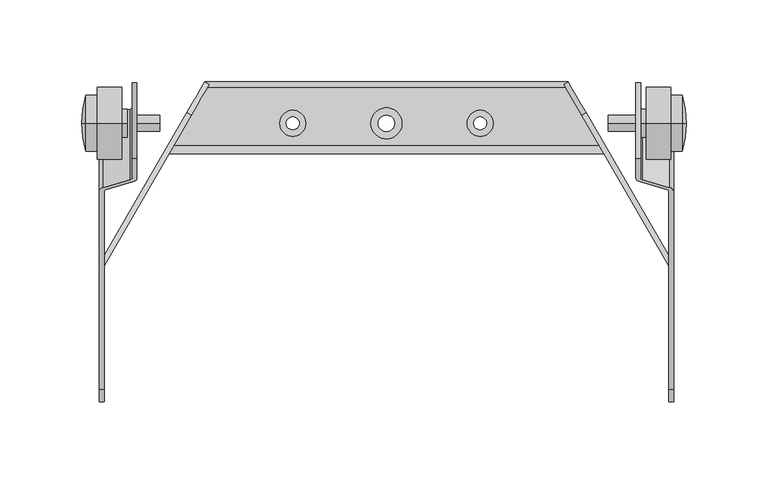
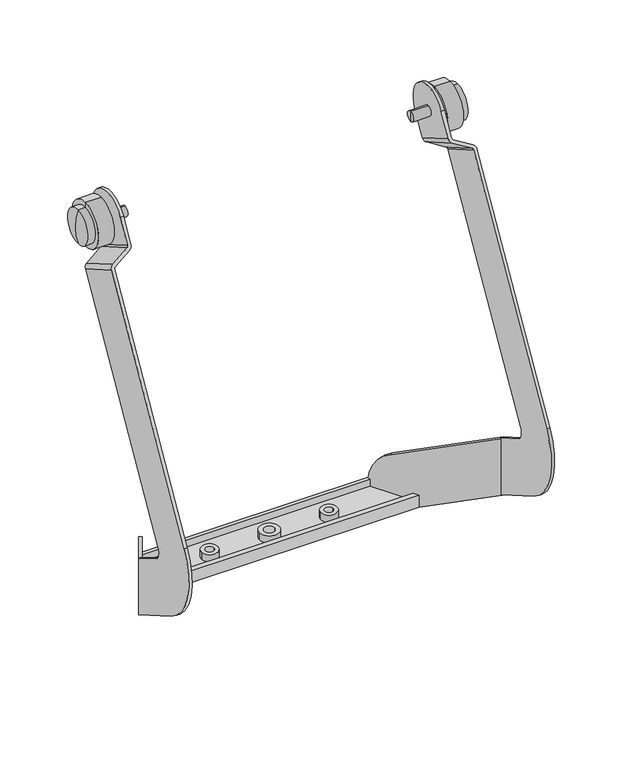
"""IFC4 building model written with IfcOpenShell, lengths in millimetres: proxy geometry, d&b E-Series E12 Flying Bracket : E12 Flying Bracket."""

from ifc_helpers import new_model, si_unit, point, frame, frame_2d, origin, origin_2d, place, context, project, spatial, polyline, circle_curve, ellipse_curve, trimmed, segment, composite_curve, outline, extrude, source, transform, mapped, element, save
from ifc_brep_helpers import plane_surface, cylinder_surface, revolved_surface, advanced_brep


def communication_devices_dac326ea(model_context):
    return source(origin(), model_context, "Body", "SolidModel", [
        advanced_brep(
        [(135.9595215, 0.0, 0.0), (135.9595215, 0.0, 5.0), (135.9595215, 0.0, -5.0), (152.9595215, 0.0, -5.0), (152.9595215, 0.0, 5.0), (152.9595215, 0.0, 0.0)],
        [
            (0, 1),
            (1, 2, circle_curve(frame((135.9595215, 0.0, 0.0), z_axis=(-1.0, 0.0, 0.0), x_axis=(0.0, 0.0, 1.0)), 5.0)),
            (2, 0),
            (2, 1, circle_curve(frame((135.9595215, 0.0, 0.0), z_axis=(-1.0, 0.0, 0.0), x_axis=(0.0, 0.0, 1.0)), 5.0)),
            (3, 4, circle_curve(frame((152.9595215, 0.0, 0.0), z_axis=(1.0, 0.0, 0.0), x_axis=(0.0, 0.0, 1.0)), 5.0)),
            (4, 5),
            (5, 3),
            (4, 3, circle_curve(frame((152.9595215, 0.0, 0.0), z_axis=(1.0, 0.0, 0.0), x_axis=(0.0, 0.0, 1.0)), 5.0)),
            (1, 4),
            (3, 2),
        ],
        [
            plane_surface(frame((135.9595215, 0.0, 0.0), z_axis=(-1.0, 0.0, 0.0), x_axis=(0.0, 0.0, 1.0))),
            plane_surface(frame((152.9595215, 0.0, 0.0), z_axis=(1.0, 0.0, 0.0), x_axis=(0.0, 0.0, 1.0))),
            cylinder_surface(frame((129.4940408, 0.0, 0.0), z_axis=(-1.0, 0.0, 0.0), x_axis=(0.0, 0.0, 1.0)), 5.0),
        ],
        [
            (0, [[1, 2, 3]]),
            (0, [[-3, 4, -1]]),
            (1, [[5, 6, 7]]),
            (1, [[8, -7, -6]]),
            (2, [[-2, 9, -5, 10]]),
            (2, [[-4, -10, -8, -9]]),
        ],
    ),
        advanced_brep(
        [(174.1608752, 0.0, -17.2114062), (174.1608752, 0.0, 17.2114062), (181.2977902, 0.0, 17.2114062), (181.2977902, 0.0, -17.2114062), (174.1608752, 0.0, -22.2114062), (174.1608752, 0.0, 22.2114062), (159.1608752, 0.0, -22.2114062), (159.1608752, 0.0, 22.2114062), (159.1608752, 0.0, -8.6587657), (159.1608752, 0.0, 8.6587657), (155.9595215, 0.0, -8.6587657), (155.9595215, 0.0, 8.6587657), (155.9595215, 0.0, 0.0), (183.8983232, 0.0, 0.0)],
        [
            (0, 1, circle_curve(frame((174.1608752, 0.0, 0.0), z_axis=(1.0, 0.0, 0.0), x_axis=(0.0, 0.0, 1.0)), 17.2114062)),
            (1, 2),
            (2, 3, circle_curve(frame((181.2977902, 0.0, 0.0), z_axis=(-1.0, 0.0, 0.0), x_axis=(0.0, 0.0, 1.0)), 17.2114062)),
            (3, 0),
            (1, 0, circle_curve(frame((174.1608752, 0.0, 0.0), z_axis=(1.0, 0.0, 0.0), x_axis=(0.0, 0.0, 1.0)), 17.2114062)),
            (3, 2, circle_curve(frame((181.2977902, 0.0, 0.0), z_axis=(-1.0, 0.0, 0.0), x_axis=(0.0, 0.0, 1.0)), 17.2114062)),
            (4, 5, circle_curve(frame((174.1608752, 0.0, 0.0), z_axis=(1.0, 0.0, 0.0), x_axis=(0.0, 0.0, 1.0)), 22.2114062)),
            (5, 1),
            (0, 4),
            (5, 4, circle_curve(frame((174.1608752, 0.0, 0.0), z_axis=(1.0, 0.0, 0.0), x_axis=(0.0, 0.0, 1.0)), 22.2114062)),
            (6, 7, circle_curve(frame((159.1608752, 0.0, 0.0), z_axis=(1.0, 0.0, 0.0), x_axis=(0.0, 0.0, 1.0)), 22.2114062)),
            (7, 5),
            (4, 6),
            (7, 6, circle_curve(frame((159.1608752, 0.0, 0.0), z_axis=(1.0, 0.0, 0.0), x_axis=(0.0, 0.0, 1.0)), 22.2114062)),
            (8, 9, circle_curve(frame((159.1608752, 0.0, 0.0), z_axis=(1.0, 0.0, 0.0), x_axis=(0.0, 0.0, 1.0)), 8.6587657)),
            (9, 7),
            (6, 8),
            (9, 8, circle_curve(frame((159.1608752, 0.0, 0.0), z_axis=(1.0, 0.0, 0.0), x_axis=(0.0, 0.0, 1.0)), 8.6587657)),
            (10, 11, circle_curve(frame((155.9595215, 0.0, 0.0), z_axis=(1.0, 0.0, 0.0), x_axis=(0.0, 0.0, 1.0)), 8.6587657)),
            (11, 9),
            (8, 10),
            (11, 10, circle_curve(frame((155.9595215, 0.0, 0.0), z_axis=(1.0, 0.0, 0.0), x_axis=(0.0, 0.0, 1.0)), 8.6587657)),
            (12, 11),
            (10, 12),
            (2, 13, circle_curve(frame((125.6419429, 0.0, 0.0), z_axis=(0.0, 1.0, 0.0), x_axis=(1.0, 0.0, 0.0)), 58.2563803)),
            (13, 3, circle_curve(frame((125.6419429, 0.0, 0.0), z_axis=(0.0, 1.0, 0.0), x_axis=(1.0, 0.0, 0.0)), 58.2563803)),
        ],
        [
            cylinder_surface(frame((129.4940408, 0.0, 0.0), z_axis=(-1.0, 0.0, 0.0), x_axis=(0.0, 0.0, 1.0)), 17.2114062),
            plane_surface(frame((174.1608752, 0.0, 0.0), z_axis=(1.0, 0.0, 0.0), x_axis=(0.0, 0.0, 1.0))),
            cylinder_surface(frame((129.4940408, 0.0, 0.0), z_axis=(-1.0, 0.0, 0.0), x_axis=(0.0, 0.0, 1.0)), 22.2114062),
            plane_surface(frame((159.1608752, 0.0, 0.0), z_axis=(-1.0, 0.0, 0.0), x_axis=(0.0, 0.0, 1.0))),
            cylinder_surface(frame((129.4940408, 0.0, 0.0), z_axis=(-1.0, 0.0, 0.0), x_axis=(0.0, 0.0, 1.0)), 8.6587657),
            plane_surface(frame((155.9595215, 0.0, 0.0), z_axis=(-1.0, 0.0, 0.0), x_axis=(0.0, 0.0, 1.0))),
            revolved_surface(trimmed(ellipse_curve(frame((125.6419429, 0.0, 0.0), z_axis=(0.0, -1.0, 0.0), x_axis=(1.0, 0.0, 0.0)), 58.2563803, 58.2563803), [point((183.8983232, 0.0, 0.0))], [point((181.2977902, 0.0, 17.2114062))], True, "CARTESIAN"), (129.4940408, 0.0, 0.0), (-1.0, 0.0, 0.0)),
        ],
        [
            (0, [[1, 2, 3, 4]]),
            (0, [[5, -4, 6, -2]]),
            (1, [[7, 8, -1, 9]]),
            (1, [[10, -9, -5, -8]]),
            (2, [[11, 12, -7, 13]]),
            (2, [[14, -13, -10, -12]]),
            (3, [[15, 16, -11, 17]]),
            (3, [[18, -17, -14, -16]]),
            (4, [[19, 20, -15, 21]]),
            (4, [[22, -21, -18, -20]]),
            (5, [[23, -19, 24]]),
            (5, [[-24, -22, -23]]),
            (6, [[-3, 25, 26]]),
            (6, [[-6, -26, -25]]),
        ],
    ),
        advanced_brep(
        [(-155.9595215, 0.0, -5.0), (-155.9595215, 0.0, 5.0), (-138.9595215, 0.0, 5.0), (-138.9595215, 0.0, -5.0), (-155.9595215, 0.0, 0.0), (-138.9595215, 0.0, 0.0)],
        [
            (0, 1, circle_curve(frame((-155.9595215, 0.0, 0.0), z_axis=(1.0, 0.0, 0.0), x_axis=(0.0, 0.0, 1.0)), 5.0)),
            (1, 2),
            (2, 3, circle_curve(frame((-138.9595215, 0.0, 0.0), z_axis=(-1.0, 0.0, 0.0), x_axis=(0.0, 0.0, 1.0)), 5.0)),
            (3, 0),
            (1, 0, circle_curve(frame((-155.9595215, 0.0, 0.0), z_axis=(1.0, 0.0, 0.0), x_axis=(0.0, 0.0, 1.0)), 5.0)),
            (3, 2, circle_curve(frame((-138.9595215, 0.0, 0.0), z_axis=(-1.0, 0.0, 0.0), x_axis=(0.0, 0.0, 1.0)), 5.0)),
            (4, 1),
            (0, 4),
            (2, 5),
            (5, 3),
        ],
        [
            cylinder_surface(frame((129.4940408, 0.0, 0.0), z_axis=(-1.0, 0.0, 0.0), x_axis=(0.0, 0.0, 1.0)), 5.0),
            plane_surface(frame((-155.9595215, 0.0, 0.0), z_axis=(-1.0, 0.0, 0.0), x_axis=(0.0, 0.0, 1.0))),
            plane_surface(frame((-138.9595215, 0.0, 0.0), z_axis=(1.0, 0.0, 0.0), x_axis=(0.0, 0.0, 1.0))),
        ],
        [
            (0, [[1, 2, 3, 4]]),
            (0, [[5, -4, 6, -2]]),
            (1, [[7, -1, 8]]),
            (1, [[-8, -5, -7]]),
            (2, [[-3, 9, 10]]),
            (2, [[-6, -10, -9]]),
        ],
    ),
        advanced_brep(
        [(-158.9595215, 0.0, -8.6587657), (-158.9595215, 0.0, 8.6587657), (-158.9595215, 0.0, 0.0), (-162.1608752, 0.0, -8.6587657), (-162.1608752, 0.0, 8.6587657), (-162.1608752, 0.0, -22.2114062), (-162.1608752, 0.0, 22.2114062), (-177.1608752, 0.0, -22.2114062), (-177.1608752, 0.0, 22.2114062), (-177.1608752, 0.0, -17.2114062), (-177.1608752, 0.0, 17.2114062), (-184.2977902, 0.0, -17.2114062), (-184.2977902, 0.0, 17.2114062), (-186.8983232, 0.0, 0.0)],
        [
            (0, 1, circle_curve(frame((-158.9595215, 0.0, 0.0), z_axis=(1.0, 0.0, 0.0), x_axis=(0.0, 0.0, 1.0)), 8.6587657)),
            (1, 2),
            (2, 0),
            (1, 0, circle_curve(frame((-158.9595215, 0.0, 0.0), z_axis=(1.0, 0.0, 0.0), x_axis=(0.0, 0.0, 1.0)), 8.6587657)),
            (3, 4, circle_curve(frame((-162.1608752, 0.0, 0.0), z_axis=(1.0, 0.0, 0.0), x_axis=(0.0, 0.0, 1.0)), 8.6587657)),
            (4, 1),
            (0, 3),
            (4, 3, circle_curve(frame((-162.1608752, 0.0, 0.0), z_axis=(1.0, 0.0, 0.0), x_axis=(0.0, 0.0, 1.0)), 8.6587657)),
            (5, 6, circle_curve(frame((-162.1608752, 0.0, 0.0), z_axis=(1.0, 0.0, 0.0), x_axis=(0.0, 0.0, 1.0)), 22.2114062)),
            (6, 4),
            (3, 5),
            (6, 5, circle_curve(frame((-162.1608752, 0.0, 0.0), z_axis=(1.0, 0.0, 0.0), x_axis=(0.0, 0.0, 1.0)), 22.2114062)),
            (7, 8, circle_curve(frame((-177.1608752, 0.0, 0.0), z_axis=(1.0, 0.0, 0.0), x_axis=(0.0, 0.0, 1.0)), 22.2114062)),
            (8, 6),
            (5, 7),
            (8, 7, circle_curve(frame((-177.1608752, 0.0, 0.0), z_axis=(1.0, 0.0, 0.0), x_axis=(0.0, 0.0, 1.0)), 22.2114062)),
            (9, 10, circle_curve(frame((-177.1608752, 0.0, 0.0), z_axis=(1.0, 0.0, 0.0), x_axis=(0.0, 0.0, 1.0)), 17.2114062)),
            (10, 8),
            (7, 9),
            (10, 9, circle_curve(frame((-177.1608752, 0.0, 0.0), z_axis=(1.0, 0.0, 0.0), x_axis=(0.0, 0.0, 1.0)), 17.2114062)),
            (11, 12, circle_curve(frame((-184.2977902, 0.0, 0.0), z_axis=(1.0, 0.0, 0.0), x_axis=(0.0, 0.0, 1.0)), 17.2114062)),
            (12, 10),
            (9, 11),
            (12, 11, circle_curve(frame((-184.2977902, 0.0, 0.0), z_axis=(1.0, 0.0, 0.0), x_axis=(0.0, 0.0, 1.0)), 17.2114062)),
            (13, 12, circle_curve(frame((-128.6419429, 0.0, 0.0), z_axis=(0.0, 1.0, 0.0), x_axis=(-1.0, 0.0, 0.0)), 58.2563803)),
            (11, 13, circle_curve(frame((-128.6419429, 0.0, 0.0), z_axis=(0.0, 1.0, 0.0), x_axis=(-1.0, 0.0, 0.0)), 58.2563803)),
        ],
        [
            plane_surface(frame((-158.9595215, 0.0, 0.0), z_axis=(1.0, 0.0, 0.0), x_axis=(0.0, 0.0, 1.0))),
            cylinder_surface(frame((129.4940408, 0.0, 0.0), z_axis=(-1.0, 0.0, 0.0), x_axis=(0.0, 0.0, 1.0)), 8.6587657),
            plane_surface(frame((-162.1608752, 0.0, 0.0), z_axis=(1.0, 0.0, 0.0), x_axis=(0.0, 0.0, 1.0))),
            cylinder_surface(frame((129.4940408, 0.0, 0.0), z_axis=(-1.0, 0.0, 0.0), x_axis=(0.0, 0.0, 1.0)), 22.2114062),
            plane_surface(frame((-177.1608752, 0.0, 0.0), z_axis=(-1.0, 0.0, 0.0), x_axis=(0.0, 0.0, 1.0))),
            cylinder_surface(frame((129.4940408, 0.0, 0.0), z_axis=(-1.0, 0.0, 0.0), x_axis=(0.0, 0.0, 1.0)), 17.2114062),
            revolved_surface(trimmed(ellipse_curve(frame((-128.6419429, 0.0, 0.0), z_axis=(0.0, -1.0, 0.0), x_axis=(-1.0, 0.0, 0.0)), 58.2563803, 58.2563803), [point((-184.2977902, 0.0, 17.2114062))], [point((-186.8983232, 0.0, 0.0))], True, "CARTESIAN"), (129.4940408, 0.0, 0.0), (-1.0, 0.0, 0.0)),
        ],
        [
            (0, [[1, 2, 3]]),
            (0, [[4, -3, -2]]),
            (1, [[5, 6, -1, 7]]),
            (1, [[8, -7, -4, -6]]),
            (2, [[9, 10, -5, 11]]),
            (2, [[12, -11, -8, -10]]),
            (3, [[13, 14, -9, 15]]),
            (3, [[16, -15, -12, -14]]),
            (4, [[17, 18, -13, 19]]),
            (4, [[20, -19, -16, -18]]),
            (5, [[21, 22, -17, 23]]),
            (5, [[24, -23, -20, -22]]),
            (6, [[25, -21, 26]]),
            (6, [[-26, -24, -25]]),
        ],
    ),
        advanced_brep(
        [(-109.8427221, 22.0294085, -380.4443113), (-130.4541267, -13.6705915, -380.4443113), (130.4541267, -13.6705915, -380.4443113), (109.8427221, 22.0294085, -380.4443113), (-61.4155031, 0.0, -380.4443113), (-53.4660711, 0.0, -380.4443113), (61.4155031, 0.0, -380.4443113), (53.4660711, 0.0, -380.4443113), (-5.0, 0.0, -380.4443113), (5.0, 0.0, -380.4443113), (-133.340878, -18.6705915, -385.4443113), (133.340878, -18.6705915, -385.4443113), (133.340878, -18.6705915, -373.4443113), (-133.340878, -18.6705915, -373.4443113), (-61.4155031, 0.0, -385.4443113), (-53.4660711, 0.0, -385.4443113), (61.4155031, 0.0, -385.4443113), (53.4660711, 0.0, -385.4443113), (-5.0, 0.0, -385.4443113), (5.0, 0.0, -385.4443113), (-155.9595215, -21.6526926, 12.5011879), (-155.9595215, 21.6485776, -12.4988121), (-155.9595215, 9.4859574, -33.5650882), (-155.9595215, -33.8153128, -8.5650882), (-152.9595215, -21.6526926, 12.5011879), (-152.9595215, -33.8153128, -8.5650882), (-152.9595215, 9.4859574, -33.5650882), (-152.9595215, 21.6485776, -12.4988121), (-156.9595215, -34.6813382, -10.0650882), (-173.5, -39.456163, -18.3353275), (-176.0, -41.6212266, -22.0853275), (-176.0, -162.8973037, -232.1416549), (-173.0, -162.8973037, -232.1416549), (-173.0, -41.6212266, -22.0853275), (-172.0, -40.7552012, -20.5853275), (-155.4595215, -35.9803763, -12.3150882), (-155.4595215, 7.3208939, -37.3150882), (-172.0, 2.546069, -45.5853275), (-173.0, 1.6800436, -47.0853275), (-173.0, -119.6052554, -257.1576276), (-176.0, -119.6052554, -257.1576276), (-176.0, 1.6800436, -47.0853275), (-173.5, 3.8451071, -43.3353275), (-156.9595215, 8.619932, -35.0650882), (-173.0, -140.9357795, -314.1031791), (-173.0, -87.3622057, -345.0338964), (-173.0, -87.3622057, -288.1862499), (-173.0, -86.5583581, -288.5343764), (-173.0, -86.5583581, -287.7842681), (-173.0, -115.9450014, -270.8178817), (-176.0, -115.9450014, -270.8178817), (-176.0, -86.5583581, -287.7842681), (-176.0, -86.5583581, -345.497998), (-176.0, -140.9357795, -314.1031791), (130.4541267, -13.6705915, -373.4443113), (-130.4541267, -13.6705915, -373.4443113), (111.2860977, 25.5294085, -373.4443113), (-111.2860977, 25.5294085, -373.4443113), (-111.3757414, 25.3741412, -373.4443113), (-108.7776652, 23.8741412, -373.4443113), (-109.8427221, 22.0294085, -373.4443113), (109.8427221, 22.0294085, -373.4443113), (108.7776652, 23.8741412, -373.4443113), (111.3757414, 25.3741412, -373.4443113), (111.2860977, 25.5294085, -385.4443113), (-111.2860977, 25.5294085, -385.4443113), (-173.4019238, -88.0583581, -344.6319726), (-122.3407926, 6.3821154, -341.4512241), (-135.9400452, -17.1724811, -385.4443113), (-173.4019238, -88.0583581, -345.497998), (-119.7427164, 4.8821154, -341.4512241), (135.9400452, -17.1724811, -385.4443113), (122.3407926, 6.3821154, -341.4512241), (176.0, -86.5583581, -287.7842681), (176.0, -86.5583581, -345.497998), (173.0, 1.6800436, -47.0853275), (173.0, -119.6052554, -257.1576276), (173.0, -115.9450014, -270.8178817), (173.0, -86.5583581, -287.7842681), (173.0, -86.5583581, -288.5343764), (173.0, -87.3622057, -288.1862499), (173.0, -87.3622057, -345.0338964), (173.0, -140.9357795, -314.1031791), (173.0, -162.8973037, -232.1416549), (173.0, -41.6212266, -22.0853275), (176.0, -41.6212266, -22.0853275), (176.0, -162.8973037, -232.1416549), (176.0, -140.9357795, -314.1031791), (176.0, -115.9450014, -270.8178817), (176.0, -119.6052554, -257.1576276), (176.0, 1.6800436, -47.0853275), (173.5, -39.456163, -18.3353275), (156.9595215, -34.6813382, -10.0650882), (155.9595215, -33.8153128, -8.5650882), (155.9595215, -21.6526926, 12.5011879), (152.9595215, -21.6526926, 12.5011879), (152.9595215, -33.8153128, -8.5650882), (155.4595215, -35.9803763, -12.3150882), (172.0, -40.7552012, -20.5853275), (173.4019238, -88.0583581, -344.6319726), (172.0, 2.546069, -45.5853275), (155.4595215, 7.3208939, -37.3150882), (152.9595215, 9.4859574, -33.5650882), (152.9595215, 21.6485776, -12.4988121), (155.9595215, 21.6485776, -12.4988121), (155.9595215, 9.4859574, -33.5650882), (156.9595215, 8.619932, -35.0650882), (173.5, 3.8451071, -43.3353275), (173.4019238, -88.0583581, -345.497998), (119.7427164, 4.8821154, -341.4512241)],
        [
            (0, 1),
            (1, 2),
            (2, 3),
            (3, 0),
            (4, 5, circle_curve(frame((-57.4407871, 0.0, -380.4443113), z_axis=(0.0, 0.0, -1.0), x_axis=(1.0, 0.0, 0.0)), 3.974716)),
            (5, 4, circle_curve(frame((-57.4407871, 0.0, -380.4443113), z_axis=(0.0, 0.0, -1.0), x_axis=(1.0, 0.0, 0.0)), 3.974716)),
            (6, 7, circle_curve(frame((57.4407871, 0.0, -380.4443113), z_axis=(0.0, 0.0, -1.0), x_axis=(-1.0, 0.0, 0.0)), 3.974716)),
            (7, 6, circle_curve(frame((57.4407871, 0.0, -380.4443113), z_axis=(0.0, 0.0, -1.0), x_axis=(-1.0, 0.0, 0.0)), 3.974716)),
            (8, 9, circle_curve(frame((0.0, 0.0, -380.4443113), z_axis=(0.0, 0.0, -1.0), x_axis=(1.0, 0.0, 0.0)), 5.0)),
            (9, 8, circle_curve(frame((0.0, 0.0, -380.4443113), z_axis=(0.0, 0.0, -1.0), x_axis=(1.0, 0.0, 0.0)), 5.0)),
            (10, 11),
            (11, 12),
            (12, 13),
            (13, 10),
            (14, 15, circle_curve(frame((-57.4407871, 0.0, -385.4443113), z_axis=(0.0, 0.0, -1.0), x_axis=(1.0, 0.0, 0.0)), 3.974716)),
            (15, 5),
            (4, 14),
            (15, 14, circle_curve(frame((-57.4407871, 0.0, -385.4443113), z_axis=(0.0, 0.0, -1.0), x_axis=(1.0, 0.0, 0.0)), 3.974716)),
            (16, 17, circle_curve(frame((57.4407871, 0.0, -385.4443113), z_axis=(0.0, 0.0, -1.0), x_axis=(-1.0, 0.0, 0.0)), 3.974716)),
            (17, 7),
            (6, 16),
            (17, 16, circle_curve(frame((57.4407871, 0.0, -385.4443113), z_axis=(0.0, 0.0, -1.0), x_axis=(-1.0, 0.0, 0.0)), 3.974716)),
            (18, 19, circle_curve(frame((0.0, 0.0, -385.4443113), z_axis=(0.0, 0.0, -1.0), x_axis=(1.0, 0.0, 0.0)), 5.0)),
            (19, 9),
            (8, 18),
            (19, 18, circle_curve(frame((0.0, 0.0, -385.4443113), z_axis=(0.0, 0.0, -1.0), x_axis=(1.0, 0.0, 0.0)), 5.0)),
            (20, 21, circle_curve(frame((-155.9595215, -0.0020575, 0.0011879), z_axis=(-1.0, 0.0, 0.0), x_axis=(0.0, -1.0, 0.0)), 25.0)),
            (21, 22),
            (22, 23),
            (23, 20),
            (24, 25),
            (25, 26),
            (26, 27),
            (27, 24, circle_curve(frame((-152.9595215, -0.0020575, 0.0011879), z_axis=(1.0, 0.0, 0.0), x_axis=(0.0, -1.0, 0.0)), 25.0)),
            (23, 28, circle_curve(frame((-157.9595215, -33.8153128, -8.5650882), z_axis=(0.0, 0.866025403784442, -0.4999999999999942), x_axis=(0.0, 0.4999999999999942, 0.866025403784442)), 2.0)),
            (28, 29),
            (29, 30, circle_curve(frame((-171.0, -41.6212266, -22.0853275), z_axis=(0.0, -0.866025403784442, 0.4999999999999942), x_axis=(0.0, 0.4999999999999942, 0.866025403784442)), 5.0)),
            (30, 31),
            (31, 32),
            (32, 33),
            (33, 34, circle_curve(frame((-171.0, -41.6212266, -22.0853275), z_axis=(0.0, 0.866025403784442, -0.4999999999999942), x_axis=(0.0, 0.4999999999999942, 0.866025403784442)), 2.0)),
            (34, 35),
            (35, 25, circle_curve(frame((-157.9595215, -33.8153128, -8.5650882), z_axis=(0.0, -0.866025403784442, 0.4999999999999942), x_axis=(0.0, 0.4999999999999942, 0.866025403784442)), 5.0)),
            (24, 20),
            (21, 27),
            (26, 36, circle_curve(frame((-157.9595215, 9.4859574, -33.5650882), z_axis=(0.0, 0.866025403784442, -0.4999999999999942), x_axis=(0.0, 0.4999999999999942, 0.866025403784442)), 5.0)),
            (36, 37),
            (37, 38, circle_curve(frame((-171.0, 1.6800436, -47.0853275), z_axis=(0.0, -0.866025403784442, 0.4999999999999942), x_axis=(0.0, 0.4999999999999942, 0.866025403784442)), 2.0)),
            (38, 39),
            (39, 40),
            (40, 41),
            (41, 42, circle_curve(frame((-171.0, 1.6800436, -47.0853275), z_axis=(0.0, 0.866025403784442, -0.4999999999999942), x_axis=(0.0, 0.4999999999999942, 0.866025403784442)), 5.0)),
            (42, 43),
            (43, 22, circle_curve(frame((-157.9595215, 9.4859574, -33.5650882), z_axis=(0.0, -0.866025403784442, 0.4999999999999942), x_axis=(0.0, 0.4999999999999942, 0.866025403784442)), 2.0)),
            (32, 44, circle_curve(frame((-173.0, -110.9357795, -262.1416549), z_axis=(1.0, 0.0, 0.0), x_axis=(0.0, -1.0, 0.0)), 60.0)),
            (44, 45),
            (45, 46),
            (46, 47),
            (47, 48),
            (48, 49),
            (49, 39, circle_curve(frame((-173.0, -110.9450014, -262.1576276), z_axis=(-1.0, 0.0, 0.0), x_axis=(0.0, -1.0, 0.0)), 10.0)),
            (38, 33),
            (40, 50, circle_curve(frame((-176.0, -110.9450014, -262.1576276), z_axis=(1.0, 0.0, 0.0), x_axis=(0.0, -1.0, 0.0)), 10.0)),
            (50, 51),
            (51, 52),
            (52, 53),
            (53, 31, circle_curve(frame((-176.0, -110.9357795, -262.1416549), z_axis=(-1.0, 0.0, 0.0), x_axis=(0.0, -1.0, 0.0)), 60.0)),
            (30, 41),
            (12, 54),
            (54, 55),
            (55, 13),
            (56, 57),
            (57, 58),
            (58, 59),
            (59, 60),
            (60, 61),
            (61, 62),
            (62, 63),
            (63, 56),
            (54, 2),
            (1, 55),
            (60, 0),
            (3, 61),
            (56, 64),
            (64, 65),
            (65, 57),
            (53, 44),
            (52, 66),
            (66, 45),
            (51, 48),
            (47, 51),
            (50, 49),
            (37, 34),
            (36, 35),
            (43, 28),
            (42, 29),
            (51, 67),
            (67, 58, circle_curve(frame((-131.2860977, -9.1116076, -377.2272785), z_axis=(-0.866025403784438, 0.500000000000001, 0.0), x_axis=(-0.500000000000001, -0.866025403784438, 0.0)), 40.0)),
            (65, 68),
            (68, 52),
            (69, 10),
            (59, 70, circle_curve(frame((-128.6880215, -10.6116076, -377.2272785), z_axis=(0.866025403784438, -0.500000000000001, 0.0), x_axis=(-0.500000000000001, -0.866025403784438, 0.0)), 40.0)),
            (70, 46),
            (66, 69),
            (52, 69),
            (70, 67),
            (10, 68),
            (64, 71),
            (71, 11),
            (63, 72, circle_curve(frame((131.2860977, -9.1116076, -377.2272785), z_axis=(0.866025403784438, 0.500000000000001, 0.0), x_axis=(0.500000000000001, -0.866025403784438, 0.0)), 40.0)),
            (72, 73),
            (73, 74),
            (74, 71),
            (75, 76),
            (76, 77, circle_curve(frame((173.0, -110.9450014, -262.1576276), z_axis=(1.0, 0.0, 0.0), x_axis=(0.0, -1.0, 0.0)), 10.0)),
            (77, 78),
            (78, 79),
            (79, 80),
            (80, 81),
            (81, 82),
            (82, 83, circle_curve(frame((173.0, -110.9357795, -262.1416549), z_axis=(-1.0, 0.0, 0.0), x_axis=(0.0, -1.0, 0.0)), 60.0)),
            (83, 84),
            (84, 75),
            (85, 86),
            (86, 87, circle_curve(frame((176.0, -110.9357795, -262.1416549), z_axis=(1.0, 0.0, 0.0), x_axis=(0.0, -1.0, 0.0)), 60.0)),
            (87, 74),
            (73, 88),
            (88, 89, circle_curve(frame((176.0, -110.9450014, -262.1576276), z_axis=(-1.0, 0.0, 0.0), x_axis=(0.0, -1.0, 0.0)), 10.0)),
            (89, 90),
            (90, 85),
            (83, 86),
            (85, 91, circle_curve(frame((171.0, -41.6212266, -22.0853275), z_axis=(0.0, -0.866025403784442, 0.4999999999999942), x_axis=(0.0, 0.4999999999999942, 0.866025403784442)), 5.0)),
            (91, 92),
            (92, 93, circle_curve(frame((157.9595215, -33.8153128, -8.5650882), z_axis=(0.0, 0.866025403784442, -0.4999999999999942), x_axis=(0.0, 0.4999999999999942, 0.866025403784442)), 2.0)),
            (93, 94),
            (94, 95),
            (95, 96),
            (96, 97, circle_curve(frame((157.9595215, -33.8153128, -8.5650882), z_axis=(0.0, -0.866025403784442, 0.4999999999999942), x_axis=(0.0, 0.4999999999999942, 0.866025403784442)), 5.0)),
            (97, 98),
            (98, 84, circle_curve(frame((171.0, -41.6212266, -22.0853275), z_axis=(0.0, 0.866025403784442, -0.4999999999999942), x_axis=(0.0, 0.4999999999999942, 0.866025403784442)), 2.0)),
            (82, 87),
            (81, 99),
            (99, 74),
            (78, 73),
            (73, 79),
            (77, 88),
            (76, 89),
            (75, 100, circle_curve(frame((171.0, 1.6800436, -47.0853275), z_axis=(0.0, -0.866025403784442, 0.4999999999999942), x_axis=(0.0, 0.4999999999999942, 0.866025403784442)), 2.0)),
            (100, 101),
            (101, 102, circle_curve(frame((157.9595215, 9.4859574, -33.5650882), z_axis=(0.0, 0.866025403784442, -0.4999999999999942), x_axis=(0.0, 0.4999999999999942, 0.866025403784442)), 5.0)),
            (102, 103),
            (103, 104),
            (104, 105),
            (105, 106, circle_curve(frame((157.9595215, 9.4859574, -33.5650882), z_axis=(0.0, -0.866025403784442, 0.4999999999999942), x_axis=(0.0, 0.4999999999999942, 0.866025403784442)), 2.0)),
            (106, 107),
            (107, 90, circle_curve(frame((171.0, 1.6800436, -47.0853275), z_axis=(0.0, 0.866025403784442, -0.4999999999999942), x_axis=(0.0, 0.4999999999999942, 0.866025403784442)), 5.0)),
            (93, 105),
            (104, 94, circle_curve(frame((155.9595215, -0.0020575, 0.0011879), z_axis=(1.0, 0.0, 0.0), x_axis=(0.0, -1.0, 0.0)), 25.0)),
            (95, 103, circle_curve(frame((152.9595215, -0.0020575, 0.0011879), z_axis=(-1.0, 0.0, 0.0), x_axis=(0.0, -1.0, 0.0)), 25.0)),
            (102, 96),
            (98, 100),
            (97, 101),
            (92, 106),
            (91, 107),
            (11, 108),
            (108, 99),
            (80, 109),
            (109, 62, circle_curve(frame((128.6880215, -10.6116076, -377.2272785), z_axis=(-0.866025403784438, -0.500000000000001, 0.0), x_axis=(0.500000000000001, -0.866025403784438, 0.0)), 40.0)),
            (108, 74),
            (72, 109),
        ],
        [
            plane_surface(frame((-104.945433, 30.511762, -380.4443113), z_axis=(0.0, 0.0, 1.0), x_axis=(-0.4999999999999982, -0.8660254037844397, 0.0))),
            plane_surface(frame((-133.340878, -18.6705915, -380.4443113), z_axis=(0.0, -1.0, 0.0), x_axis=(0.0, 0.0, -1.0))),
            revolved_surface(polyline([(-53.4660711, 0.0, -385.4443113), (-53.4660711, 0.0, -380.4443113)]), (-57.4407871, 0.0, -380.4443113), (0.0, 0.0, -1.0)),
            revolved_surface(polyline([(53.4660711, 0.0, -385.4443113), (53.4660711, 0.0, -380.4443113)]), (57.4407871, 0.0, -380.4443113), (0.0, 0.0, -1.0)),
            revolved_surface(polyline([(5.0, 0.0, -385.4443113), (5.0, 0.0, -380.4443113)]), (0.0, 0.0, -380.4443113), (0.0, 0.0, -1.0)),
            plane_surface(frame((-155.9595215, -25.0020575, 0.0011879), z_axis=(-1.0, 0.0, 0.0), x_axis=(0.0, 0.0, 1.0))),
            plane_surface(frame((-152.9595215, -25.0020575, 0.0011879), z_axis=(1.0, 0.0, 0.0), x_axis=(0.0, 0.0, -1.0))),
            plane_surface(frame((-155.9595215, -33.8153128, -8.5650882), z_axis=(0.0, -0.8660254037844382, 0.500000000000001), x_axis=(1.0, 0.0, 0.0))),
            plane_surface(frame((-155.9595215, 21.6485776, -12.4988121), z_axis=(0.0, 0.8660254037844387, -0.5), x_axis=(1.0, 0.0, 0.0))),
            cylinder_surface(frame((-152.9595215, -0.0020575, 0.0011879), z_axis=(-1.0, 0.0, 0.0), x_axis=(0.0, -1.0, 0.0)), 25.0),
            plane_surface(frame((-173.0, -162.8973037, -232.1416549), z_axis=(1.0, 0.0, 0.0), x_axis=(0.0, -0.49999999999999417, -0.866025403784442))),
            plane_surface(frame((-176.0, -162.8973037, -232.1416549), z_axis=(-1.0, 0.0, 0.0), x_axis=(0.0, 0.49999999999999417, 0.866025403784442))),
            plane_surface(frame((-125.0774491, -4.3579127, -373.4443113), z_axis=(0.0, 0.0, 1.0), x_axis=(-0.5000000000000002, -0.8660254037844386, 0.0))),
            plane_surface(frame((130.4541267, -13.6705915, -373.4443113), z_axis=(0.0, 1.0, 0.0), x_axis=(0.0, 0.0, -1.0))),
            plane_surface(frame((-113.3068237, 22.0294085, -373.4443113), z_axis=(0.0, -1.0, 0.0), x_axis=(0.0, 0.0, -1.0))),
            plane_surface(frame((111.2860977, 25.5294085, -373.4443113), z_axis=(0.0, 1.0, 0.0), x_axis=(0.0, 0.0, -1.0))),
            cylinder_surface(frame((-176.0, -110.9357795, -262.1416549), z_axis=(1.0, 0.0, 0.0), x_axis=(0.0, -1.0, 0.0)), 60.0),
            plane_surface(frame((-173.0, -140.9357795, -314.1031791), z_axis=(0.0, -0.4999999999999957, -0.8660254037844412), x_axis=(-1.0, 0.0, 0.0))),
            plane_surface(frame((-173.0, -86.5583581, -345.497998), z_axis=(0.0, 1.0, 0.0), x_axis=(-1.0, 0.0, 0.0))),
            plane_surface(frame((-173.0, -86.5583581, -287.7842681), z_axis=(0.0, 0.49999999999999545, 0.8660254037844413), x_axis=(-1.0, 0.0, 0.0))),
            revolved_surface(polyline([(-176.0, -120.9450014, -262.1576276), (-173.0, -120.9450014, -262.1576276)]), (-176.0, -110.9450014, -262.1576276), (-1.0, 0.0, 0.0)),
            revolved_surface(polyline([(-171.0, 2.6800435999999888, -45.353276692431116), (-171.0, -40.621226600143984, -20.353276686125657)]), (-171.0, 1.6800436, -47.0853275), (0.0, 0.866025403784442, -0.4999999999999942)),
            plane_surface(frame((-172.0, -40.7552012, -20.5853275), z_axis=(0.5000000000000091, -0.43301270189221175, -0.7499999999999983), x_axis=(0.0, 0.866025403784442, -0.4999999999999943))),
            cylinder_surface(frame((-157.9595215, 9.4859574, -33.5650882), z_axis=(0.0, -0.866025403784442, 0.4999999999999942), x_axis=(0.0, 0.4999999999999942, 0.866025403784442)), 5.0),
            revolved_surface(polyline([(-157.9595215, 10.48595740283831, -31.833037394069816), (-157.9595215, -32.815312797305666, -6.833037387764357)]), (-157.9595215, 9.4859574, -33.5650882), (0.0, 0.866025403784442, -0.4999999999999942)),
            plane_surface(frame((-156.9595215, -34.6813382, -10.0650882), z_axis=(-0.5000000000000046, 0.43301270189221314, 0.7500000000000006), x_axis=(0.0, 0.8660254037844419, -0.49999999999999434))),
            cylinder_surface(frame((-171.0, 1.6800436, -47.0853275), z_axis=(0.0, -0.866025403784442, 0.4999999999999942), x_axis=(0.0, 0.4999999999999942, 0.866025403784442)), 5.0),
            plane_surface(frame((-176.0, -86.5583581, -287.7842681), z_axis=(-0.866025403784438, 0.500000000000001, 0.0), x_axis=(0.0, 0.0, 1.0))),
            plane_surface(frame((-173.4019238, -88.0583581, -287.7842681), z_axis=(0.866025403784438, -0.500000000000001, 0.0), x_axis=(0.0, 0.0, -1.0))),
            plane_surface(frame((-176.0, -86.5583581, -345.497998), z_axis=(-0.5000000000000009, -0.8660254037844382, 0.0), x_axis=(0.8660254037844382, -0.5000000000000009, 0.0))),
            plane_surface(frame((-176.0, -86.5583581, -287.7842681), z_axis=(0.22363262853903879, 0.38734307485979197, 0.8944013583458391), x_axis=(0.8660254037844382, -0.5000000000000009, 0.0))),
            cylinder_surface(frame((-128.6880215, -10.6116076, -377.2272785), z_axis=(-0.866025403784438, 0.500000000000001, 0.0), x_axis=(-0.500000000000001, -0.866025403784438, 0.0)), 40.0),
            plane_surface(frame((-111.2860977, 25.5294085, -385.4443113), z_axis=(0.0, 0.0, -1.0), x_axis=(0.8660254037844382, -0.5000000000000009, 0.0))),
            plane_surface(frame((-135.9400452, -17.1724811, -385.4443113), z_axis=(-0.2230989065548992, -0.3864186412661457, -0.8949343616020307), x_axis=(0.8660254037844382, -0.5000000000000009, 0.0))),
            plane_surface(frame((113.3068237, 22.0294085, -373.4443113), z_axis=(0.8660254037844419, 0.4999999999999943, 0.0), x_axis=(0.0, 0.0, -1.0))),
            plane_surface(frame((173.0, -64.3129938, -8.9842295), z_axis=(-1.0, 0.0, 0.0), x_axis=(0.0, 0.8660254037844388, -0.4999999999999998))),
            plane_surface(frame((176.0, -64.3129938, -8.9842295), z_axis=(1.0, 0.0, 0.0), x_axis=(0.0, -0.8660254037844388, 0.4999999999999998))),
            plane_surface(frame((173.0, -162.8973037, -232.1416549), z_axis=(0.0, -0.866025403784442, 0.49999999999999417), x_axis=(1.0, 0.0, 0.0))),
            cylinder_surface(frame((176.0, -110.9357795, -262.1416549), z_axis=(-1.0, 0.0, 0.0), x_axis=(0.0, -1.0, 0.0)), 60.0),
            plane_surface(frame((173.0, -86.5583581, -345.497998), z_axis=(0.0, -0.4999999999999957, -0.8660254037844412), x_axis=(1.0, 0.0, 0.0))),
            plane_surface(frame((173.0, -86.5583581, -287.7842681), z_axis=(0.0, 1.0, 0.0), x_axis=(1.0, 0.0, 0.0))),
            plane_surface(frame((173.0, -115.9450014, -270.8178817), z_axis=(0.0, 0.49999999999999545, 0.8660254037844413), x_axis=(1.0, 0.0, 0.0))),
            revolved_surface(polyline([(176.0, -120.9450014, -262.1576276), (173.0, -120.9450014, -262.1576276)]), (176.0, -110.9450014, -262.1576276), (1.0, 0.0, 0.0)),
            plane_surface(frame((173.0, 1.6800436, -47.0853275), z_axis=(0.0, 0.8660254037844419, -0.49999999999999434), x_axis=(1.0, 0.0, 0.0))),
            plane_surface(frame((155.9595215, -115.6740046, -150.3485014), z_axis=(1.0, 0.0, 0.0), x_axis=(0.0, -0.500000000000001, -0.8660254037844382))),
            plane_surface(frame((152.9595215, -115.6740046, -150.3485014), z_axis=(-1.0, 0.0, 0.0), x_axis=(0.0, 0.500000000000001, 0.8660254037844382))),
            cylinder_surface(frame((152.9595215, -0.0020575, 0.0011879), z_axis=(1.0, 0.0, 0.0), x_axis=(0.0, -1.0, 0.0)), 25.0),
            revolved_surface(polyline([(171.0, 2.6800435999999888, -45.353276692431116), (171.0, -40.621226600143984, -20.353276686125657)]), (171.0, 1.6800436, -47.0853275), (0.0, 0.866025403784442, -0.4999999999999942)),
            plane_surface(frame((155.4595215, -35.9803763, -12.3150882), z_axis=(-0.5000000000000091, -0.43301270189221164, -0.7499999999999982), x_axis=(0.0, 0.866025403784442, -0.4999999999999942))),
            cylinder_surface(frame((157.9595215, 9.4859574, -33.5650882), z_axis=(0.0, -0.866025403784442, 0.4999999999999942), x_axis=(0.0, 0.4999999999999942, 0.866025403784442)), 5.0),
            revolved_surface(polyline([(157.9595215, 10.48595740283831, -31.833037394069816), (157.9595215, -32.815312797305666, -6.833037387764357)]), (157.9595215, 9.4859574, -33.5650882), (0.0, 0.866025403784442, -0.4999999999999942)),
            plane_surface(frame((173.5, -39.456163, -18.3353275), z_axis=(0.5000000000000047, 0.433012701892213, 0.7500000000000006), x_axis=(0.0, 0.866025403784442, -0.4999999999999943))),
            cylinder_surface(frame((171.0, 1.6800436, -47.0853275), z_axis=(0.0, -0.866025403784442, 0.4999999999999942), x_axis=(0.0, 0.4999999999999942, 0.866025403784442)), 5.0),
            plane_surface(frame((139.827767, -29.9062127, -378.9769121), z_axis=(-0.8660254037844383, -0.5000000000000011, 0.0), x_axis=(0.4474671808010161, -0.7750358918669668, 0.44619781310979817))),
            plane_surface(frame((176.0, -86.5583581, -287.7842681), z_axis=(0.5000000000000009, -0.8660254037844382, 0.0), x_axis=(-0.8660254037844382, -0.5000000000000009, 0.0))),
            plane_surface(frame((122.3407926, 6.3821154, -341.4512241), z_axis=(-0.22363262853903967, 0.38734307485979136, 0.894401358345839), x_axis=(-0.8660254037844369, -0.500000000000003, 0.0))),
            cylinder_surface(frame((128.6880215, -10.6116076, -377.2272785), z_axis=(0.866025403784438, 0.500000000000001, 0.0), x_axis=(0.500000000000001, -0.866025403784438, 0.0)), 40.0),
            plane_surface(frame((176.0, -86.5583581, -345.497998), z_axis=(0.22309890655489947, -0.3864186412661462, -0.8949343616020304), x_axis=(-0.8660254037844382, -0.5000000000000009, 0.0))),
        ],
        [
            (0, [[1, 2, 3, 4], [5, 6], [7, 8], [9, 10]]),
            (1, [[11, 12, 13, 14]]),
            (2, [[15, 16, -5, 17]]),
            (2, [[18, -17, -6, -16]]),
            (3, [[19, 20, -7, 21]]),
            (3, [[22, -21, -8, -20]]),
            (4, [[23, 24, -9, 25]]),
            (4, [[26, -25, -10, -24]]),
            (5, [[27, 28, 29, 30]]),
            (6, [[31, 32, 33, 34]]),
            (7, [[-30, 35, 36, 37, 38, 39, 40, 41, 42, 43, -31, 44]]),
            (8, [[-28, 45, -33, 46, 47, 48, 49, 50, 51, 52, 53, 54]]),
            (9, [[-27, -44, -34, -45]]),
            (10, [[-40, 55, 56, 57, 58, 59, 60, 61, -49, 62]]),
            (11, [[-51, 63, 64, 65, 66, 67, -38, 68]]),
            (12, [[-13, 69, 70, 71]]),
            (12, [[72, 73, 74, 75, 76, 77, 78, 79]]),
            (13, [[-70, 80, -2, 81]]),
            (14, [[82, -4, 83, -76]]),
            (15, [[-72, 84, 85, 86]]),
            (16, [[-55, -39, -67, 87]]),
            (17, [[-66, 88, 89, -56, -87]]),
            (18, [[90, -59, 91]]),
            (19, [[-60, -90, -64, 92]]),
            (20, [[-61, -92, -63, -50]]),
            (21, [[-48, 93, -41, -62]]),
            (22, [[-47, 94, -42, -93]]),
            (23, [[-46, -32, -43, -94]]),
            (24, [[-54, 95, -35, -29]]),
            (25, [[-53, 96, -36, -95]]),
            (26, [[-52, -68, -37, -96]]),
            (27, [[97, 98, -73, -86, 99, 100, -65]]),
            (28, [[101, -14, -71, -81, -1, -82, -75, 102, 103, -57, -89, 104]]),
            (29, [[105, -104, -88]]),
            (30, [[-97, -91, -58, -103, 106]]),
            (31, [[-106, -102, -74, -98]]),
            (32, [[107, -99, -85, 108, 109, -11], [-18, -15], [-22, -19], [-26, -23]]),
            (33, [[-100, -107, -101, -105]]),
            (34, [[-108, -84, -79, 110, 111, 112, 113]]),
            (35, [[114, 115, 116, 117, 118, 119, 120, 121, 122, 123]]),
            (36, [[124, 125, 126, -112, 127, 128, 129, 130]]),
            (37, [[-122, 131, -124, 132, 133, 134, 135, 136, 137, 138, 139, 140]]),
            (38, [[-121, 141, -125, -131]]),
            (39, [[-126, -141, -120, 142, 143]]),
            (40, [[144, 145, -117]]),
            (41, [[-116, 146, -127, -144]]),
            (42, [[-115, 147, -128, -146]]),
            (43, [[-114, 148, 149, 150, 151, 152, 153, 154, 155, 156, -129, -147]]),
            (44, [[-135, 157, -153, 158]]),
            (45, [[159, -151, 160, -137]]),
            (46, [[-158, -152, -159, -136]]),
            (47, [[-148, -123, -140, 161]]),
            (48, [[-149, -161, -139, 162]]),
            (49, [[-150, -162, -138, -160]]),
            (50, [[-154, -157, -134, 163]]),
            (51, [[-155, -163, -133, 164]]),
            (52, [[-156, -164, -132, -130]]),
            (53, [[165, 166, -142, -119, 167, 168, -77, -83, -3, -80, -69, -12]]),
            (54, [[169, -143, -166]]),
            (55, [[-111, 170, -167, -118, -145]]),
            (56, [[-170, -110, -78, -168]]),
            (57, [[-113, -169, -165, -109]]),
        ],
    ),
        extrude(outline(composite_curve([segment(trimmed(circle_curve(origin_2d(), 9.4817959), [point((-9.4817959, 0.0))], [point((9.4817959, 0.0))], False, "CARTESIAN"), True, "CONTINUOUS"), segment(trimmed(circle_curve(origin_2d(), 9.4817959), [point((9.4817959, 0.0))], [point((-9.4817959, 0.0))], False, "CARTESIAN"), True, "CONTINUOUS")], self_intersect=False), holes=[composite_curve([segment(trimmed(circle_curve(origin_2d(), 5.0), [point((-5.0, 0.0))], [point((5.0, 0.0))], True, "CARTESIAN"), True, "CONTINUOUS"), segment(trimmed(circle_curve(origin_2d(), 5.0), [point((5.0, 0.0))], [point((-5.0, 0.0))], True, "CARTESIAN"), True, "CONTINUOUS")], self_intersect=False)]), frame((0.0, 0.0, -380.4443113), z_axis=(0.0, 0.0, 1.0), x_axis=(1.0, 0.0, 0.0)), (0.0, 0.0, 1.0), 7.6),
        extrude(outline(composite_curve([segment(trimmed(circle_curve(frame_2d((57.4407871, 0.0)), 7.9633792), [point((49.4774079, 0.0))], [point((65.4041663, 0.0))], False, "CARTESIAN"), True, "CONTINUOUS"), segment(trimmed(circle_curve(frame_2d((57.4407871, 0.0)), 7.9633792), [point((65.4041663, 0.0))], [point((49.4774079, 0.0))], False, "CARTESIAN"), True, "CONTINUOUS")], self_intersect=False), holes=[composite_curve([segment(trimmed(circle_curve(frame_2d((57.4407871, 0.0)), 3.974716), [point((61.4155031, 0.0))], [point((53.4660711, 0.0))], True, "CARTESIAN"), True, "CONTINUOUS"), segment(trimmed(circle_curve(frame_2d((57.4407871, 0.0)), 3.974716), [point((53.4660711, 0.0))], [point((61.4155031, 0.0))], True, "CARTESIAN"), True, "CONTINUOUS")], self_intersect=False)]), frame((0.0, 0.0, -380.4443113), z_axis=(0.0, 0.0, 1.0), x_axis=(1.0, 0.0, 0.0)), (0.0, 0.0, 1.0), 7.6),
        extrude(outline(composite_curve([segment(trimmed(circle_curve(frame_2d((-57.4407871, 0.0)), 7.9633792), [point((-49.4774079, 0.0))], [point((-65.4041663, 0.0))], False, "CARTESIAN"), True, "CONTINUOUS"), segment(trimmed(circle_curve(frame_2d((-57.4407871, 0.0)), 7.9633792), [point((-65.4041663, 0.0))], [point((-49.4774079, 0.0))], False, "CARTESIAN"), True, "CONTINUOUS")], self_intersect=False), holes=[composite_curve([segment(trimmed(circle_curve(frame_2d((-57.4407871, 0.0)), 3.974716), [point((-61.4155031, 0.0))], [point((-53.4660711, 0.0))], True, "CARTESIAN"), True, "CONTINUOUS"), segment(trimmed(circle_curve(frame_2d((-57.4407871, 0.0)), 3.974716), [point((-53.4660711, 0.0))], [point((-61.4155031, 0.0))], True, "CARTESIAN"), True, "CONTINUOUS")], self_intersect=False)]), frame((0.0, 0.0, -380.4443113), z_axis=(0.0, 0.0, 1.0), x_axis=(1.0, 0.0, 0.0)), (0.0, 0.0, 1.0), 7.6),
    ])


if __name__ == "__main__":
    model = new_model("IFC4")
    model_context = context("Model", 3, world=origin())
    ifc_project = project(units=[si_unit("LENGTHUNIT", "METRE", prefix="MILLI")], contexts=[model_context])
    site = spatial("IfcSite", under=ifc_project)
    building = spatial("IfcBuilding", under=site)
    placement = place(None, origin())
    communication_devices_shape = communication_devices_dac326ea(model_context)
    element("IfcBuildingElementProxy", 1, Name="d&b E-Series E12 Flying Bracket : E12 Flying Bracket", ObjectType="d&b E-Series E12 Flying Bracket : E12 Flying Bracket", at=placement, inside=building, context=model_context, shape_type="MappedRepresentation", body=[
        mapped(communication_devices_shape, transform((0.0, 0.0, 0.0), x_axis=(1.0, 0.0, 0.0), y_axis=(0.0, 1.0, 0.0), z_axis=(0.0, 0.0, 1.0))),
    ])
    save(model, "model.ifc")
